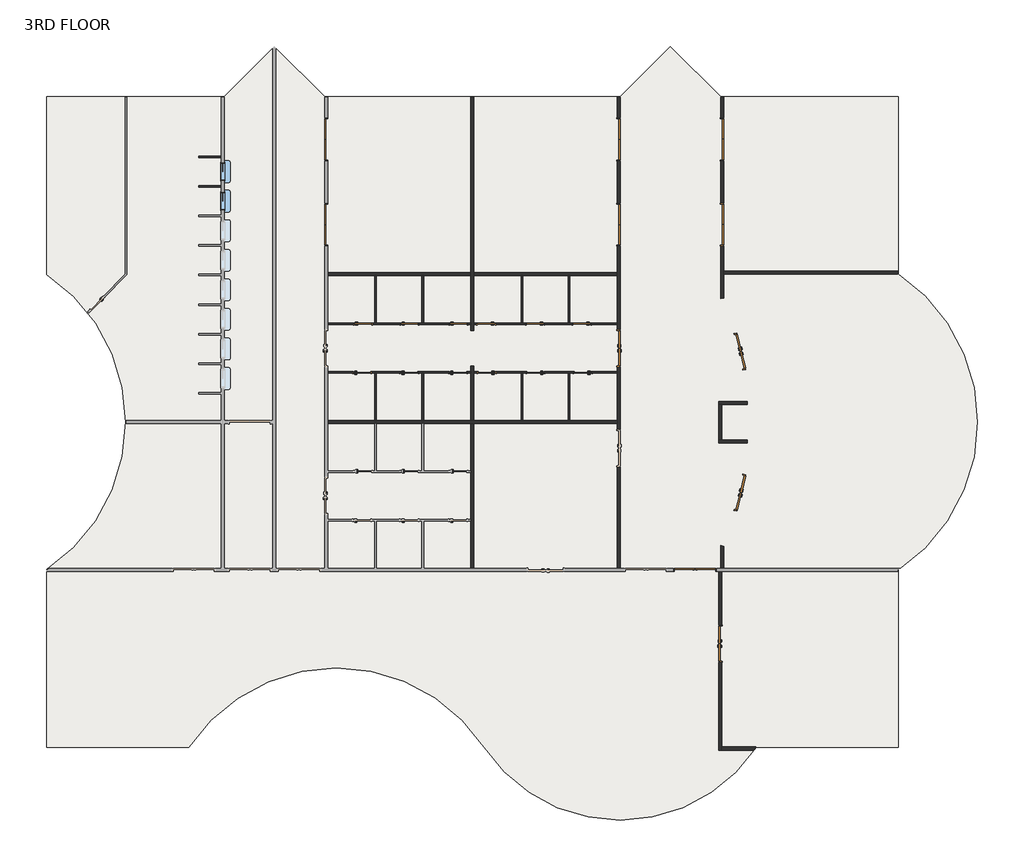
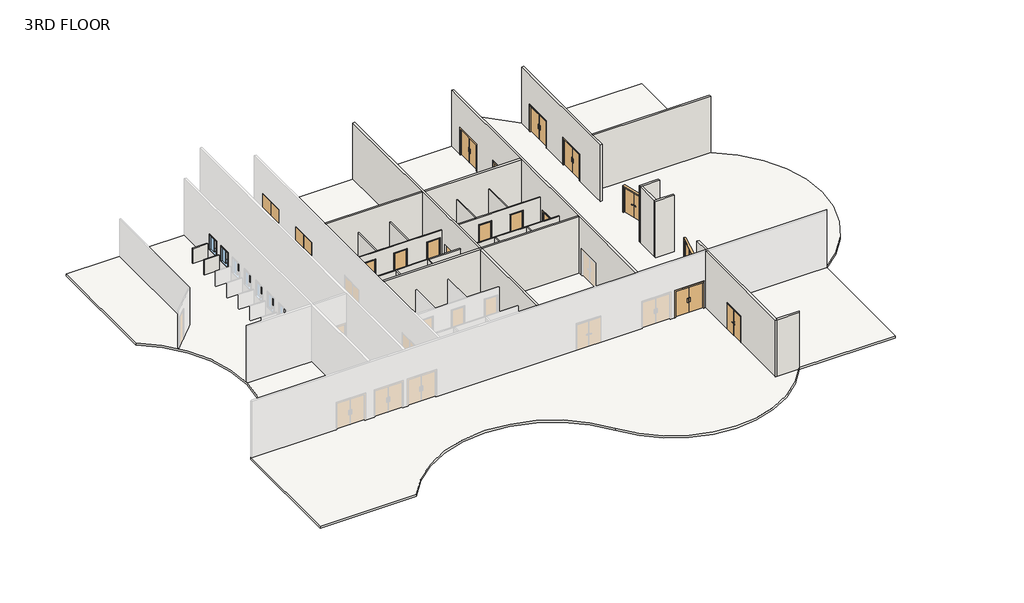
# One storey, part 2 of 2: 26 walls, 23 doors, 2 windows, 1 slab.
"""IFC4 building model written with IfcOpenShell, lengths in millimetres."""

from ifc_helpers import new_model, si_unit, point, frame, frame_2d, origin, place, context, project, spatial, polyline, circle_curve, trimmed, segment, composite_curve, outline, extrude, faceted_brep, transform, mapped, element, save
from ifc_brep_helpers import plane_surface, cylinder_surface, advanced_brep
from components import door_2f250f70, door_df8e76c5, door_0b13e4d9, door_b3a27a16, door_979b1b8c, door_f8b587be, pass_thru_4x3_19d81059

model = new_model("IFC4")

# Units and contexts
model_context = context("Model", 3, world=origin())
ifc_project = project(units=[si_unit("LENGTHUNIT", "METRE", prefix="MILLI")], contexts=[model_context])

# Site, building, storey
site = spatial("IfcSite", under=ifc_project)
building = spatial("IfcBuilding", under=site)
storey = spatial("IfcBuildingStorey", under=building, Name="3RD FLOOR", Elevation=13716.0)

# Doors
placement = place(None, origin())
door_shape = door_2f250f70(model_context)
element("IfcDoor", 1, ObjectType="Door-Passage-Double-Flush : 72\" x 82\"", at=placement, inside=storey, context=model_context, shape_type="MappedRepresentation", body=[
    mapped(door_shape, transform((35885.2621514, 20561.4429091, 13716.0), x_axis=(0.23975975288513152, -0.9708322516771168, 0.0), y_axis=(0.9708322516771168, 0.23975975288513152, 0.0), z_axis=(0.0, 0.0, 1.0))),
])
element("IfcDoor", 2, ObjectType="Door-Passage-Double-Flush : 72\" x 82\"", at=placement, inside=storey, context=model_context, shape_type="MappedRepresentation", body=[
    mapped(door_shape, transform((34887.5089577, 5494.3375, 13716.0), x_axis=(0.0, 1.0, 0.0), y_axis=(-1.0, 0.0, 0.0), z_axis=(0.0, 0.0, 1.0))),
])
door_2_shape = door_df8e76c5(model_context)
element("IfcDoor", 3, ObjectType="Door-Passage-Double-Flush : 72\" x 82\"", at=placement, inside=storey, context=model_context, shape_type="MappedRepresentation", body=[
    mapped(door_2_shape, transform((35886.7385063, 13277.3403388, 13716.0), x_axis=(0.23936619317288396, 0.9709293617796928, 0.0), y_axis=(-0.9709293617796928, 0.23936619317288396, 0.0), z_axis=(0.0, 0.0, 1.0))),
])
element("IfcDoor", 4, ObjectType="Door-Passage-Double-Flush : 72\" x 82\"", at=placement, inside=storey, context=model_context, shape_type="MappedRepresentation", body=[
    mapped(door_2_shape, transform((29628.0650257, 20729.575, 13716.0), x_axis=(0.0, 1.0, 0.0), y_axis=(-1.0, 0.0, 0.0), z_axis=(0.0, 0.0, 1.0))),
])
door_3_shape = door_0b13e4d9(model_context)
element("IfcDoor", 5, ObjectType="Door-Passage-Double-Flush-Dbl_Acting : 84\" x 84\"", at=placement, inside=storey, context=model_context, shape_type="MappedRepresentation", body=[
    mapped(door_3_shape, transform((33564.0300515, 9293.225, 13716.0), x_axis=(-1.0, 0.0, 0.0), y_axis=(0.0, -1.0, 0.0), z_axis=(0.0, 0.0, 1.0))),
])
element("IfcDoor", 6, ObjectType="Door-Passage-Double-Flush-Dbl_Acting : 84\" x 84\"", at=placement, inside=storey, context=model_context, shape_type="MappedRepresentation", body=[
    mapped(door_3_shape, transform((29628.0650257, 31499.175, 13716.0), x_axis=(0.0, 1.0, 0.0), y_axis=(-1.0, 0.0, 0.0), z_axis=(0.0, 0.0, 1.0))),
])
element("IfcDoor", 7, ObjectType="Door-Passage-Double-Flush-Dbl_Acting : 84\" x 84\"", at=placement, inside=storey, context=model_context, shape_type="MappedRepresentation", body=[
    mapped(door_3_shape, transform((29628.0650257, 27101.8, 13716.0), x_axis=(0.0, 1.0, 0.0), y_axis=(-1.0, 0.0, 0.0), z_axis=(0.0, 0.0, 1.0))),
])
door_4_shape = door_b3a27a16(model_context)
element("IfcDoor", 8, ObjectType="Door-Passage-Double-Flush-Dbl_Acting : 84\" x 84\"", at=placement, inside=storey, context=model_context, shape_type="MappedRepresentation", body=[
    mapped(door_4_shape, transform((14556.3400257, 31499.175, 13716.0), x_axis=(0.0, 1.0, 0.0), y_axis=(-1.0, 0.0, 0.0), z_axis=(0.0, 0.0, 1.0))),
])
element("IfcDoor", 9, ObjectType="Door-Passage-Double-Flush-Dbl_Acting : 84\" x 84\"", at=placement, inside=storey, context=model_context, shape_type="MappedRepresentation", body=[
    mapped(door_4_shape, transform((14556.3400257, 27101.8, 13716.0), x_axis=(0.0, 1.0, 0.0), y_axis=(-1.0, 0.0, 0.0), z_axis=(0.0, 0.0, 1.0))),
])
element("IfcDoor", 10, ObjectType="Door-Passage-Double-Flush-Dbl_Acting : 84\" x 84\"", at=placement, inside=storey, context=model_context, shape_type="MappedRepresentation", body=[
    mapped(door_4_shape, transform((34956.2675515, 31499.175, 13716.0), x_axis=(0.0, -1.0, 0.0), y_axis=(1.0, 0.0, 0.0), z_axis=(0.0, 0.0, 1.0))),
])
element("IfcDoor", 11, ObjectType="Door-Passage-Double-Flush-Dbl_Acting : 84\" x 84\"", at=placement, inside=storey, context=model_context, shape_type="MappedRepresentation", body=[
    mapped(door_4_shape, transform((34956.2675515, 27101.8, 13716.0), x_axis=(0.0, -1.0, 0.0), y_axis=(1.0, 0.0, 0.0), z_axis=(0.0, 0.0, 1.0))),
])
door_5_shape = door_979b1b8c(model_context)
element("IfcDoor", 12, ObjectType="Door-Passage-Single-Flush : 36\" x 96\"", at=placement, inside=storey, context=model_context, shape_type="MappedRepresentation", body=[
    mapped(door_5_shape, transform((16456.5775257, 21977.35, 13716.0), x_axis=(1.0, 0.0, 0.0), y_axis=(0.0, 1.0, 0.0), z_axis=(0.0, 0.0, 1.0))),
])
element("IfcDoor", 13, ObjectType="Door-Passage-Single-Flush : 36\" x 96\"", at=placement, inside=storey, context=model_context, shape_type="MappedRepresentation", body=[
    mapped(door_5_shape, transform((18855.2900257, 21977.35, 13716.0), x_axis=(1.0, 0.0, 0.0), y_axis=(0.0, 1.0, 0.0), z_axis=(0.0, 0.0, 1.0))),
])
element("IfcDoor", 14, ObjectType="Door-Passage-Single-Flush : 36\" x 96\"", at=placement, inside=storey, context=model_context, shape_type="MappedRepresentation", body=[
    mapped(door_5_shape, transform((21373.0650257, 21977.35, 13716.0), x_axis=(1.0, 0.0, 0.0), y_axis=(0.0, 1.0, 0.0), z_axis=(0.0, 0.0, 1.0))),
])
element("IfcDoor", 15, ObjectType="Door-Passage-Single-Flush : 36\" x 96\"", at=placement, inside=storey, context=model_context, shape_type="MappedRepresentation", body=[
    mapped(door_5_shape, transform((27778.6275257, 19481.8, 13716.0), x_axis=(-1.0, 0.0, 0.0), y_axis=(0.0, -1.0, 0.0), z_axis=(0.0, 0.0, 1.0))),
])
element("IfcDoor", 16, ObjectType="Door-Passage-Single-Flush : 36\" x 96\"", at=placement, inside=storey, context=model_context, shape_type="MappedRepresentation", body=[
    mapped(door_5_shape, transform((25348.1650257, 19481.8, 13716.0), x_axis=(-1.0, 0.0, 0.0), y_axis=(0.0, -1.0, 0.0), z_axis=(0.0, 0.0, 1.0))),
])
element("IfcDoor", 17, ObjectType="Door-Passage-Single-Flush : 36\" x 96\"", at=placement, inside=storey, context=model_context, shape_type="MappedRepresentation", body=[
    mapped(door_5_shape, transform((22830.3900257, 19481.8, 13716.0), x_axis=(-1.0, 0.0, 0.0), y_axis=(0.0, -1.0, 0.0), z_axis=(0.0, 0.0, 1.0))),
])
door_6_shape = door_f8b587be(model_context)
element("IfcDoor", 18, ObjectType="Door-Passage-Single-Flush : 36\" x 96\"", at=placement, inside=storey, context=model_context, shape_type="MappedRepresentation", body=[
    mapped(door_6_shape, transform((16405.7775257, 19481.8, 13716.0), x_axis=(1.0, 0.0, 0.0), y_axis=(0.0, 1.0, 0.0), z_axis=(0.0, 0.0, 1.0))),
])
element("IfcDoor", 19, ObjectType="Door-Passage-Single-Flush : 36\" x 96\"", at=placement, inside=storey, context=model_context, shape_type="MappedRepresentation", body=[
    mapped(door_6_shape, transform((18836.2400257, 19481.8, 13716.0), x_axis=(1.0, 0.0, 0.0), y_axis=(0.0, 1.0, 0.0), z_axis=(0.0, 0.0, 1.0))),
])
element("IfcDoor", 20, ObjectType="Door-Passage-Single-Flush : 36\" x 96\"", at=placement, inside=storey, context=model_context, shape_type="MappedRepresentation", body=[
    mapped(door_6_shape, transform((21354.0150257, 19481.8, 13716.0), x_axis=(1.0, 0.0, 0.0), y_axis=(0.0, 1.0, 0.0), z_axis=(0.0, 0.0, 1.0))),
])
element("IfcDoor", 21, ObjectType="Door-Passage-Single-Flush : 36\" x 96\"", at=placement, inside=storey, context=model_context, shape_type="MappedRepresentation", body=[
    mapped(door_6_shape, transform((27727.8275257, 21977.35, 13716.0), x_axis=(-1.0, 0.0, 0.0), y_axis=(0.0, -1.0, 0.0), z_axis=(0.0, 0.0, 1.0))),
])
element("IfcDoor", 22, ObjectType="Door-Passage-Single-Flush : 36\" x 96\"", at=placement, inside=storey, context=model_context, shape_type="MappedRepresentation", body=[
    mapped(door_6_shape, transform((25329.1150257, 21977.35, 13716.0), x_axis=(-1.0, 0.0, 0.0), y_axis=(0.0, -1.0, 0.0), z_axis=(0.0, 0.0, 1.0))),
])
element("IfcDoor", 23, ObjectType="Door-Passage-Single-Flush : 36\" x 96\"", at=placement, inside=storey, context=model_context, shape_type="MappedRepresentation", body=[
    mapped(door_6_shape, transform((22811.3400257, 21977.35, 13716.0), x_axis=(-1.0, 0.0, 0.0), y_axis=(0.0, -1.0, 0.0), z_axis=(0.0, 0.0, 1.0))),
])

# Slab
element("IfcSlab", 24, ObjectType="ARCHITECTURAL FINISH FLOOR", at=placement, inside=storey, context=model_context, shape_type="SweptSolid", body=[
    extrude(outline(composite_curve([segment(polyline([(9294.3144878, 33696.275), (11885.8887629, 36287.8492751), (14477.463038, 33696.275), (29706.9420135, 33696.275), (32298.5162886, 36287.8492751), (34890.0905637, 33696.275), (44041.5300515, 33696.275), (44041.5300515, 24546.3877275)]), True, "CONTINUOUS"), segment(trimmed(circle_curve(frame_2d((38974.293871, 16919.575)), 9156.7), [point((44041.5300515, 24546.3877275))], [point((44041.5300515, 9292.7622725))], False, "CARTESIAN"), True, "CONTINUOUS"), segment(polyline([(44041.5300515, 9292.7622725), (44041.5300515, 142.875), (36720.4425102, 142.875)]), True, "CONTINUOUS"), segment(trimmed(circle_curve(frame_2d((29712.2025257, 4799.7966199)), 8414.4130309), [point((36720.4425102, 142.875))], [point((22700.1916667, 148.5548109))], False, "CARTESIAN"), True, "CONTINUOUS"), segment(trimmed(circle_curve(frame_2d((15090.775, -4898.9611805)), 9131.3), [point((22700.1916667, 148.5548109))], [point((7477.593824, 142.875))], True, "CARTESIAN"), True, "CONTINUOUS"), segment(polyline([(7477.593824, 142.875), (142.875, 142.875), (142.875, 9306.393824)]), True, "CONTINUOUS"), segment(trimmed(circle_curve(frame_2d((-4898.9611805, 16919.575)), 9131.3), [point((142.875, 9306.393824))], [point((142.875, 24532.756176))], True, "CARTESIAN"), True, "CONTINUOUS"), segment(polyline([(142.875, 24532.756176), (142.875, 33696.275), (9294.3144878, 33696.275)]), True, "CONTINUOUS")], self_intersect=False)), frame((0.0, 0.0, 13563.6), z_axis=(0.0, 0.0, 1.0), x_axis=(1.0, 0.0, 0.0)), (0.0, 0.0, 1.0), 171.45),
])

# Walls
element("IfcWall", 25, ObjectType="SYR_INT_ONE_HOUR", at=placement, inside=storey, context=model_context, shape_type="SweptSolid", body=[
    extrude(outline(polyline([(17066.1775257, 22023.3875), (17066.1775257, 24461.7875), (17145.5525257, 24461.7875), (17145.5525257, 22023.3875), (17066.1775257, 22023.3875)])), frame((0.0, 0.0, 13716.0), z_axis=(0.0, 0.0, 1.0), x_axis=(1.0, 0.0, 0.0)), (0.0, 0.0, 1.0), 3048.0),
])
element("IfcWall", 26, ObjectType="SYR_INT_ONE_HOUR", at=placement, inside=storey, context=model_context, shape_type="SweptSolid", body=[
    extrude(outline(polyline([(19576.0150257, 19435.7625), (19576.0150257, 16997.3625), (19496.6400257, 16997.3625), (19496.6400257, 19435.7625), (19576.0150257, 19435.7625)])), frame((0.0, 0.0, 13716.0), z_axis=(0.0, 0.0, 1.0), x_axis=(1.0, 0.0, 0.0)), (0.0, 0.0, 1.0), 3048.0),
])
element("IfcWall", 27, ObjectType="SYR_INT_ONE_HOUR", at=placement, inside=storey, context=model_context, shape_type="Brep", body=[
    faceted_brep([(14627.7775257, 22023.3875, 16764.0), (17066.1775257, 22023.3875, 16764.0), (17145.5525257, 22023.3875, 16764.0), (19496.6400257, 22023.3875, 16764.0), (19576.0150257, 22023.3875, 16764.0), (22014.4150257, 22023.3875, 16764.0), (22014.4150257, 22023.3875, 13716.0), (21862.0150257, 22023.3875, 13716.0), (21862.0150257, 22023.3875, 16186.15), (20884.1150257, 22023.3875, 16186.15), (20884.1150257, 22023.3875, 13716.0), (19576.0150257, 22023.3875, 13716.0), (19496.6400257, 22023.3875, 13716.0), (19344.2400257, 22023.3875, 13716.0), (19344.2400257, 22023.3875, 16186.15), (18366.3400257, 22023.3875, 16186.15), (18366.3400257, 22023.3875, 13716.0), (17145.5525257, 22023.3875, 13716.0), (17066.1775257, 22023.3875, 13716.0), (16945.5275257, 22023.3875, 13716.0), (16945.5275257, 22023.3875, 16186.15), (15967.6275257, 22023.3875, 16186.15), (15967.6275257, 22023.3875, 13716.0), (14627.7775257, 22023.3875, 13716.0), (22014.4150257, 21944.0125, 16764.0), (14627.7775257, 21944.0125, 16764.0), (14627.7775257, 21944.0125, 13716.0), (15967.6275257, 21944.0125, 13716.0), (15967.6275257, 21944.0125, 16186.15), (16945.5275257, 21944.0125, 16186.15), (16945.5275257, 21944.0125, 13716.0), (18366.3400257, 21944.0125, 13716.0), (18366.3400257, 21944.0125, 16186.15), (19344.2400257, 21944.0125, 16186.15), (19344.2400257, 21944.0125, 13716.0), (20884.1150257, 21944.0125, 13716.0), (20884.1150257, 21944.0125, 16186.15), (21862.0150257, 21944.0125, 16186.15), (21862.0150257, 21944.0125, 13716.0), (22014.4150257, 21944.0125, 13716.0)], [[[0, 1, 2, 3, 4, 5, 6, 7, 8, 9, 10, 11, 12, 13, 14, 15, 16, 17, 18, 19, 20, 21, 22, 23]], [[24, 25, 26, 27, 28, 29, 30, 31, 32, 33, 34, 35, 36, 37, 38, 39]], [[23, 22, 27, 26]], [[30, 19, 18, 17, 16, 31]], [[34, 13, 12, 11, 10, 35]], [[6, 39, 38, 7]], [[5, 4, 3, 2, 1, 0, 25, 24]], [[29, 20, 19, 30]], [[20, 29, 28, 21]], [[21, 28, 27, 22]], [[14, 13, 34, 33]], [[15, 14, 33, 32]], [[16, 15, 32, 31]], [[37, 8, 7, 38]], [[8, 37, 36, 9]], [[9, 36, 35, 10]], [[0, 23, 26, 25]], [[6, 5, 24, 39]]]),
])
element("IfcWall", 28, ObjectType="SYR_INT_ONE_HOUR", at=placement, inside=storey, context=model_context, shape_type="Brep", body=[
    faceted_brep([(14627.7775257, 19515.1375, 16764.0), (22014.4150257, 19515.1375, 16764.0), (22014.4150257, 19515.1375, 13716.0), (21842.9650257, 19515.1375, 13716.0), (21842.9650257, 19515.1375, 16186.15), (20865.0650257, 19515.1375, 16186.15), (20865.0650257, 19515.1375, 13716.0), (19325.1900257, 19515.1375, 13716.0), (19325.1900257, 19515.1375, 16186.15), (18347.2900257, 19515.1375, 16186.15), (18347.2900257, 19515.1375, 13716.0), (16894.7275257, 19515.1375, 13716.0), (16894.7275257, 19515.1375, 16186.15), (15916.8275257, 19515.1375, 16186.15), (15916.8275257, 19515.1375, 13716.0), (14627.7775257, 19515.1375, 13716.0), (22014.4150257, 19435.7625, 16764.0), (19576.0150257, 19435.7625, 16764.0), (19496.6400257, 19435.7625, 16764.0), (17145.5525257, 19435.7625, 16764.0), (17066.1775257, 19435.7625, 16764.0), (14627.7775257, 19435.7625, 16764.0), (14627.7775257, 19435.7625, 13716.0), (15916.8275257, 19435.7625, 13716.0), (15916.8275257, 19435.7625, 16186.15), (16894.7275257, 19435.7625, 16186.15), (16894.7275257, 19435.7625, 13716.0), (17066.1775257, 19435.7625, 13716.0), (17145.5525257, 19435.7625, 13716.0), (18347.2900257, 19435.7625, 13716.0), (18347.2900257, 19435.7625, 16186.15), (19325.1900257, 19435.7625, 16186.15), (19325.1900257, 19435.7625, 13716.0), (19496.6400257, 19435.7625, 13716.0), (19576.0150257, 19435.7625, 13716.0), (20865.0650257, 19435.7625, 13716.0), (20865.0650257, 19435.7625, 16186.15), (21842.9650257, 19435.7625, 16186.15), (21842.9650257, 19435.7625, 13716.0), (22014.4150257, 19435.7625, 13716.0)], [[[0, 1, 2, 3, 4, 5, 6, 7, 8, 9, 10, 11, 12, 13, 14, 15]], [[16, 17, 18, 19, 20, 21, 22, 23, 24, 25, 26, 27, 28, 29, 30, 31, 32, 33, 34, 35, 36, 37, 38, 39]], [[15, 14, 23, 22]], [[26, 11, 10, 29, 28, 27]], [[32, 7, 6, 35, 34, 33]], [[2, 39, 38, 3]], [[1, 0, 21, 20, 19, 18, 17, 16]], [[25, 12, 11, 26]], [[12, 25, 24, 13]], [[13, 24, 23, 14]], [[31, 8, 7, 32]], [[8, 31, 30, 9]], [[9, 30, 29, 10]], [[37, 4, 3, 38]], [[4, 37, 36, 5]], [[5, 36, 35, 6]], [[0, 15, 22, 21]], [[2, 1, 16, 39]]]),
])
element("IfcWall", 29, ObjectType="SYR_INT_ONE_HOUR", at=placement, inside=storey, context=model_context, shape_type="SweptSolid", body=[
    extrude(outline(polyline([(17066.1775257, 16997.3625), (17066.1775257, 19435.7625), (17145.5525257, 19435.7625), (17145.5525257, 16997.3625), (17066.1775257, 16997.3625)])), frame((0.0, 0.0, 13716.0), z_axis=(0.0, 0.0, 1.0), x_axis=(1.0, 0.0, 0.0)), (0.0, 0.0, 1.0), 3048.0),
])
element("IfcWall", 30, ObjectType="SYR_INT_ONE_HOUR", at=placement, inside=storey, context=model_context, shape_type="SweptSolid", body=[
    extrude(outline(polyline([(19576.0150257, 24461.7875), (19576.0150257, 22023.3875), (19496.6400257, 22023.3875), (19496.6400257, 24461.7875), (19576.0150257, 24461.7875)])), frame((0.0, 0.0, 13716.0), z_axis=(0.0, 0.0, 1.0), x_axis=(1.0, 0.0, 0.0)), (0.0, 0.0, 1.0), 3048.0),
])
element("IfcWall", 31, ObjectType="SYR_INT_ONE_HOUR", at=placement, inside=storey, context=model_context, shape_type="SweptSolid", body=[
    extrude(outline(polyline([(7979.2710938, 29111.575), (9144.0, 29111.575), (9144.0, 29032.2), (7979.2710938, 29032.2), (7979.2710938, 29111.575)])), frame((0.0, 0.0, 13716.0), z_axis=(0.0, 0.0, 1.0), x_axis=(1.0, 0.0, 0.0)), (0.0, 0.0, 1.0), 1219.2),
])
element("IfcWall", 32, ObjectType="SYR_INT_ONE_HOUR", at=placement, inside=storey, context=model_context, shape_type="SweptSolid", body=[
    extrude(outline(polyline([(7979.2710938, 30635.575), (9144.0, 30635.575), (9144.0, 30556.2), (7979.2710938, 30556.2), (7979.2710938, 30635.575)])), frame((0.0, 0.0, 13716.0), z_axis=(0.0, 0.0, 1.0), x_axis=(1.0, 0.0, 0.0)), (0.0, 0.0, 1.0), 1219.2),
])
element("IfcWall", 33, ObjectType="SYR_INT_ONE_HOUR", at=placement, inside=storey, context=model_context, shape_type="SweptSolid", body=[
    extrude(outline(polyline([(27038.8525257, 22023.3875), (27038.8525257, 24461.7875), (27118.2275257, 24461.7875), (27118.2275257, 22023.3875), (27038.8525257, 22023.3875)])), frame((0.0, 0.0, 13716.0), z_axis=(0.0, 0.0, 1.0), x_axis=(1.0, 0.0, 0.0)), (0.0, 0.0, 1.0), 3048.0),
])
element("IfcWall", 34, ObjectType="SYR_INT_ONE_HOUR", at=placement, inside=storey, context=model_context, shape_type="SweptSolid", body=[
    extrude(outline(polyline([(24687.7650257, 19435.7625), (24687.7650257, 16997.3625), (24608.3900257, 16997.3625), (24608.3900257, 19435.7625), (24687.7650257, 19435.7625)])), frame((0.0, 0.0, 13716.0), z_axis=(0.0, 0.0, 1.0), x_axis=(1.0, 0.0, 0.0)), (0.0, 0.0, 1.0), 3048.0),
])
element("IfcWall", 35, ObjectType="SYR_INT_ONE_HOUR", at=placement, inside=storey, context=model_context, shape_type="Brep", body=[
    faceted_brep([(29556.6275257, 21944.0125, 16764.0), (22169.9900257, 21944.0125, 16764.0), (22169.9900257, 21944.0125, 13716.0), (22322.3900257, 21944.0125, 13716.0), (22322.3900257, 21944.0125, 16186.15), (23300.2900257, 21944.0125, 16186.15), (23300.2900257, 21944.0125, 13716.0), (24840.1650257, 21944.0125, 13716.0), (24840.1650257, 21944.0125, 16186.15), (25818.0650257, 21944.0125, 16186.15), (25818.0650257, 21944.0125, 13716.0), (27238.8775257, 21944.0125, 13716.0), (27238.8775257, 21944.0125, 16186.15), (28216.7775257, 21944.0125, 16186.15), (28216.7775257, 21944.0125, 13716.0), (29556.6275257, 21944.0125, 13716.0), (22169.9900257, 22023.3875, 16764.0), (24608.3900257, 22023.3875, 16764.0), (24687.7650257, 22023.3875, 16764.0), (27038.8525257, 22023.3875, 16764.0), (27118.2275257, 22023.3875, 16764.0), (29556.6275257, 22023.3875, 16764.0), (29556.6275257, 22023.3875, 13716.0), (28216.7775257, 22023.3875, 13716.0), (28216.7775257, 22023.3875, 16186.15), (27238.8775257, 22023.3875, 16186.15), (27238.8775257, 22023.3875, 13716.0), (27118.2275257, 22023.3875, 13716.0), (27038.8525257, 22023.3875, 13716.0), (25818.0650257, 22023.3875, 13716.0), (25818.0650257, 22023.3875, 16186.15), (24840.1650257, 22023.3875, 16186.15), (24840.1650257, 22023.3875, 13716.0), (24687.7650257, 22023.3875, 13716.0), (24608.3900257, 22023.3875, 13716.0), (23300.2900257, 22023.3875, 13716.0), (23300.2900257, 22023.3875, 16186.15), (22322.3900257, 22023.3875, 16186.15), (22322.3900257, 22023.3875, 13716.0), (22169.9900257, 22023.3875, 13716.0)], [[[0, 1, 2, 3, 4, 5, 6, 7, 8, 9, 10, 11, 12, 13, 14, 15]], [[16, 17, 18, 19, 20, 21, 22, 23, 24, 25, 26, 27, 28, 29, 30, 31, 32, 33, 34, 35, 36, 37, 38, 39]], [[15, 14, 23, 22]], [[26, 11, 10, 29, 28, 27]], [[32, 7, 6, 35, 34, 33]], [[2, 39, 38, 3]], [[1, 0, 21, 20, 19, 18, 17, 16]], [[25, 12, 11, 26]], [[12, 25, 24, 13]], [[13, 24, 23, 14]], [[8, 7, 32, 31]], [[9, 8, 31, 30]], [[10, 9, 30, 29]], [[37, 4, 3, 38]], [[4, 37, 36, 5]], [[5, 36, 35, 6]], [[0, 15, 22, 21]], [[2, 1, 16, 39]]]),
])
element("IfcWall", 36, ObjectType="SYR_INT_ONE_HOUR", at=placement, inside=storey, context=model_context, shape_type="Brep", body=[
    faceted_brep([(29556.6275257, 19435.7625, 16764.0), (27118.2275257, 19435.7625, 16764.0), (27038.8525257, 19435.7625, 16764.0), (24687.7650257, 19435.7625, 16764.0), (24608.3900257, 19435.7625, 16764.0), (22169.9900257, 19435.7625, 16764.0), (22169.9900257, 19435.7625, 13716.0), (22341.4400257, 19435.7625, 13716.0), (22341.4400257, 19435.7625, 16186.15), (23319.3400257, 19435.7625, 16186.15), (23319.3400257, 19435.7625, 13716.0), (24608.3900257, 19435.7625, 13716.0), (24687.7650257, 19435.7625, 13716.0), (24859.2150257, 19435.7625, 13716.0), (24859.2150257, 19435.7625, 16186.15), (25837.1150257, 19435.7625, 16186.15), (25837.1150257, 19435.7625, 13716.0), (27038.8525257, 19435.7625, 13716.0), (27118.2275257, 19435.7625, 13716.0), (27289.6775257, 19435.7625, 13716.0), (27289.6775257, 19435.7625, 16186.15), (28267.5775257, 19435.7625, 16186.15), (28267.5775257, 19435.7625, 13716.0), (29556.6275257, 19435.7625, 13716.0), (22169.9900257, 19515.1375, 16764.0), (29556.6275257, 19515.1375, 16764.0), (29556.6275257, 19515.1375, 13716.0), (28267.5775257, 19515.1375, 13716.0), (28267.5775257, 19515.1375, 16186.15), (27289.6775257, 19515.1375, 16186.15), (27289.6775257, 19515.1375, 13716.0), (25837.1150257, 19515.1375, 13716.0), (25837.1150257, 19515.1375, 16186.15), (24859.2150257, 19515.1375, 16186.15), (24859.2150257, 19515.1375, 13716.0), (23319.3400257, 19515.1375, 13716.0), (23319.3400257, 19515.1375, 16186.15), (22341.4400257, 19515.1375, 16186.15), (22341.4400257, 19515.1375, 13716.0), (22169.9900257, 19515.1375, 13716.0)], [[[0, 1, 2, 3, 4, 5, 6, 7, 8, 9, 10, 11, 12, 13, 14, 15, 16, 17, 18, 19, 20, 21, 22, 23]], [[24, 25, 26, 27, 28, 29, 30, 31, 32, 33, 34, 35, 36, 37, 38, 39]], [[23, 22, 27, 26]], [[30, 19, 18, 17, 16, 31]], [[34, 13, 12, 11, 10, 35]], [[6, 39, 38, 7]], [[5, 4, 3, 2, 1, 0, 25, 24]], [[29, 20, 19, 30]], [[20, 29, 28, 21]], [[21, 28, 27, 22]], [[33, 14, 13, 34]], [[14, 33, 32, 15]], [[15, 32, 31, 16]], [[37, 8, 7, 38]], [[8, 37, 36, 9]], [[9, 36, 35, 10]], [[0, 23, 26, 25]], [[6, 5, 24, 39]]]),
])
element("IfcWall", 37, ObjectType="SYR_INT_ONE_HOUR", at=placement, inside=storey, context=model_context, shape_type="SweptSolid", body=[
    extrude(outline(polyline([(27038.8525257, 16997.3625), (27038.8525257, 19435.7625), (27118.2275257, 19435.7625), (27118.2275257, 16997.3625), (27038.8525257, 16997.3625)])), frame((0.0, 0.0, 13716.0), z_axis=(0.0, 0.0, 1.0), x_axis=(1.0, 0.0, 0.0)), (0.0, 0.0, 1.0), 3048.0),
])
element("IfcWall", 38, ObjectType="SYR_INT_ONE_HOUR", at=placement, inside=storey, context=model_context, shape_type="SweptSolid", body=[
    extrude(outline(polyline([(24687.7650257, 24461.7875), (24687.7650257, 22023.3875), (24608.3900257, 22023.3875), (24608.3900257, 24461.7875), (24687.7650257, 24461.7875)])), frame((0.0, 0.0, 13716.0), z_axis=(0.0, 0.0, 1.0), x_axis=(1.0, 0.0, 0.0)), (0.0, 0.0, 1.0), 3048.0),
])
element("IfcWall", 39, ObjectType="SYR_INT_TWO_HOUR", at=placement, inside=storey, context=model_context, shape_type="Brep", body=[
    faceted_brep([(34803.3714577, 0.0, 18288.0), (34803.3714577, 9221.7875, 18288.0), (34803.3714577, 9221.7875, 13716.0), (34803.3714577, 6459.5375, 13716.0), (34803.3714577, 6459.5375, 15900.4), (34803.3714577, 4529.1375, 15900.4), (34803.3714577, 4529.1375, 13716.0), (34803.3714577, 0.0, 13716.0), (34958.9464577, 9221.7875, 18288.0), (34958.9464577, 155.575, 18288.0), (34958.9464577, 0.0, 18288.0), (34958.9464577, 0.0, 13716.0), (34958.9464577, 155.575, 13716.0), (34958.9464577, 4529.1375, 13716.0), (34958.9464577, 4529.1375, 15900.4), (34958.9464577, 6459.5375, 15900.4), (34958.9464577, 6459.5375, 13716.0), (34958.9464577, 9221.7875, 13716.0)], [[[0, 1, 2, 3, 4, 5, 6, 7]], [[8, 9, 10, 11, 12, 13, 14, 15, 16, 17]], [[2, 17, 16, 3]], [[11, 7, 6, 13, 12]], [[1, 0, 10, 9, 8]], [[2, 1, 8, 17]], [[0, 7, 11, 10]], [[15, 4, 3, 16]], [[4, 15, 14, 5]], [[5, 14, 13, 6]]]),
])
element("IfcWall", 40, ObjectType="SYR_INT_TWO_HOUR", at=placement, inside=storey, context=model_context, shape_type="SweptSolid", body=[
    extrude(outline(composite_curve([segment(polyline([(36607.9065696, 0.0), (34958.9464577, 0.0), (34958.9464577, 155.575), (36713.6300515, 155.575)]), True, "CONTINUOUS"), segment(trimmed(circle_curve(frame_2d((29712.2025257, 4799.7966199)), 8401.7130309), [point((36713.6300515, 155.575))], [point((36607.9065696, 0.0))], False, "CARTESIAN"), True, "CONTINUOUS")], self_intersect=False)), frame((0.0, 0.0, 13716.0), z_axis=(0.0, 0.0, 1.0), x_axis=(1.0, 0.0, 0.0)), (0.0, 0.0, 1.0), 4572.0),
])
element("IfcWall", 41, ObjectType="SYR_INT_TWO_HOUR", at=placement, inside=storey, context=model_context, shape_type="Brep", body=[
    faceted_brep([(29556.6275257, 9377.3625, 18288.0), (29556.6275257, 16841.7875, 18288.0), (29556.6275257, 16997.3625, 18288.0), (29556.6275257, 24461.7875, 18288.0), (29556.6275257, 24617.3625, 18288.0), (29556.6275257, 33683.575, 18288.0), (29556.6275257, 33683.575, 13716.0), (29556.6275257, 32616.775, 13716.0), (29556.6275257, 32616.775, 15951.2), (29556.6275257, 30381.575, 15951.2), (29556.6275257, 30381.575, 13716.0), (29556.6275257, 28219.4, 13716.0), (29556.6275257, 28219.4, 15951.2), (29556.6275257, 25984.2, 15951.2), (29556.6275257, 25984.2, 13716.0), (29556.6275257, 24617.3625, 13716.0), (29556.6275257, 24461.7875, 13716.0), (29556.6275257, 22023.3875, 13716.0), (29556.6275257, 21944.0125, 13716.0), (29556.6275257, 21694.775, 13716.0), (29556.6275257, 21694.775, 15900.4), (29556.6275257, 19764.375, 15900.4), (29556.6275257, 19764.375, 13716.0), (29556.6275257, 19515.1375, 13716.0), (29556.6275257, 19435.7625, 13716.0), (29556.6275257, 16997.3625, 13716.0), (29556.6275257, 16841.7875, 13716.0), (29556.6275257, 16536.9875, 13716.0), (29556.6275257, 16536.9875, 15900.4), (29556.6275257, 14606.5875, 15900.4), (29556.6275257, 14606.5875, 13716.0), (29556.6275257, 9377.3625, 13716.0), (29712.2025257, 33683.575, 18288.0), (29712.2025257, 9377.3625, 18288.0), (29712.2025257, 9377.3625, 13716.0), (29712.2025257, 14606.5875, 13716.0), (29712.2025257, 14606.5875, 15900.4), (29712.2025257, 16536.9875, 15900.4), (29712.2025257, 16536.9875, 13716.0), (29712.2025257, 19764.375, 13716.0), (29712.2025257, 19764.375, 15900.4), (29712.2025257, 21694.775, 15900.4), (29712.2025257, 21694.775, 13716.0), (29712.2025257, 25984.2, 13716.0), (29712.2025257, 25984.2, 15951.2), (29712.2025257, 28219.4, 15951.2), (29712.2025257, 28219.4, 13716.0), (29712.2025257, 30381.575, 13716.0), (29712.2025257, 30381.575, 15951.2), (29712.2025257, 32616.775, 15951.2), (29712.2025257, 32616.775, 13716.0), (29712.2025257, 33683.575, 13716.0)], [[[0, 1, 2, 3, 4, 5, 6, 7, 8, 9, 10, 11, 12, 13, 14, 15, 16, 17, 18, 19, 20, 21, 22, 23, 24, 25, 26, 27, 28, 29, 30, 31]], [[32, 33, 34, 35, 36, 37, 38, 39, 40, 41, 42, 43, 44, 45, 46, 47, 48, 49, 50, 51]], [[34, 31, 30, 35]], [[42, 19, 18, 17, 16, 15, 14, 43]], [[22, 39, 38, 27, 26, 25, 24, 23]], [[46, 11, 10, 47]], [[7, 6, 51, 50]], [[5, 4, 3, 2, 1, 0, 33, 32]], [[0, 31, 34, 33]], [[41, 20, 19, 42]], [[20, 41, 40, 21]], [[21, 40, 39, 22]], [[45, 12, 11, 46]], [[12, 45, 44, 13]], [[13, 44, 43, 14]], [[49, 8, 7, 50]], [[8, 49, 48, 9]], [[9, 48, 47, 10]], [[29, 36, 35, 30]], [[36, 29, 28, 37]], [[37, 28, 27, 38]], [[6, 5, 32, 51]]]),
])
element("IfcWall", 42, ObjectType="SYR_INT_TWO_HOUR", at=placement, inside=storey, context=model_context, shape_type="Brep", body=[
    faceted_brep([(34884.8300515, 23286.7810764, 18288.0), (34884.8300515, 33683.575, 18288.0), (34884.8300515, 33683.575, 13716.0), (34884.8300515, 32616.775, 13716.0), (34884.8300515, 32616.775, 15951.2), (34884.8300515, 30381.575, 15951.2), (34884.8300515, 30381.575, 13716.0), (34884.8300515, 28219.4, 13716.0), (34884.8300515, 28219.4, 15951.2), (34884.8300515, 25984.2, 15951.2), (34884.8300515, 25984.2, 13716.0), (34884.8300515, 23286.7810764, 13716.0), (35040.4050515, 33683.575, 18288.0), (35040.4050515, 24695.15, 18288.0), (35040.4050515, 24539.575, 18288.0), (35040.4050515, 23320.9573614, 18288.0), (35040.4050515, 23320.9573614, 13716.0), (35040.4050515, 24539.575, 13716.0), (35040.4050515, 24695.15, 13716.0), (35040.4050515, 25984.2, 13716.0), (35040.4050515, 25984.2, 15951.2), (35040.4050515, 28219.4, 15951.2), (35040.4050515, 28219.4, 13716.0), (35040.4050515, 30381.575, 13716.0), (35040.4050515, 30381.575, 15951.2), (35040.4050515, 32616.775, 15951.2), (35040.4050515, 32616.775, 13716.0), (35040.4050515, 33683.575, 13716.0)], [[[0, 1, 2, 3, 4, 5, 6, 7, 8, 9, 10, 11]], [[12, 13, 14, 15, 16, 17, 18, 19, 20, 21, 22, 23, 24, 25, 26, 27]], [[16, 11, 10, 19, 18, 17]], [[3, 2, 27, 26]], [[6, 23, 22, 7]], [[1, 0, 15, 14, 13, 12]], [[0, 11, 16, 15]], [[5, 24, 23, 6]], [[24, 5, 4, 25]], [[25, 4, 3, 26]], [[9, 20, 19, 10]], [[20, 9, 8, 21]], [[21, 8, 7, 22]], [[2, 1, 12, 27]]]),
])
element("IfcWall", 43, ObjectType="SYR_INT_TWO_HOUR", at=placement, inside=storey, context=model_context, shape_type="Brep", body=[
    faceted_brep([(14627.7775257, 16841.7875, 13716.0), (17066.1775257, 16841.7875, 13716.0), (17145.5525257, 16841.7875, 13716.0), (19496.6400257, 16841.7875, 13716.0), (19576.0150257, 16841.7875, 13716.0), (22014.4150257, 16841.7875, 13716.0), (22169.9900257, 16841.7875, 13716.0), (29556.6275257, 16841.7875, 13716.0), (29556.6275257, 16841.7875, 18288.0), (22169.9900257, 16841.7875, 18288.0), (22014.4150257, 16841.7875, 18288.0), (14627.7775257, 16841.7875, 18288.0), (14627.7775257, 16997.3625, 13716.0), (14627.7775257, 16997.3625, 18288.0), (22014.4150257, 16997.3625, 18288.0), (22169.9900257, 16997.3625, 18288.0), (29556.6275257, 16997.3625, 18288.0), (29556.6275257, 16997.3625, 13716.0), (27118.2275257, 16997.3625, 13716.0), (27038.8525257, 16997.3625, 13716.0), (24687.7650257, 16997.3625, 13716.0), (24608.3900257, 16997.3625, 13716.0), (22169.9900257, 16997.3625, 13716.0), (22014.4150257, 16997.3625, 13716.0), (19576.0150257, 16997.3625, 13716.0), (19496.6400257, 16997.3625, 13716.0), (17145.5525257, 16997.3625, 13716.0), (17066.1775257, 16997.3625, 13716.0)], [[[0, 1, 2, 3, 4, 5, 6, 7, 8, 9, 10, 11]], [[12, 13, 14, 15, 16, 17, 18, 19, 20, 21, 22, 23, 24, 25, 26, 27]], [[7, 6, 5, 4, 3, 2, 1, 0, 12, 27, 26, 25, 24, 23, 22, 21, 20, 19, 18, 17]], [[11, 10, 9, 8, 16, 15, 14, 13]], [[0, 11, 13, 12]], [[8, 7, 17, 16]]]),
])
element("IfcWall", 44, ObjectType="SYR_INT_TWO_HOUR", at=placement, inside=storey, context=model_context, shape_type="Brep", body=[
    faceted_brep([(22169.9900257, 9377.3625, 18288.0), (22169.9900257, 9377.3625, 13716.0), (22169.9900257, 16841.7875, 13716.0), (22169.9900257, 16841.7875, 18288.0), (22014.4150257, 9377.3625, 13716.0), (22014.4150257, 9377.3625, 18288.0), (22014.4150257, 16841.7875, 18288.0), (22014.4150257, 16841.7875, 13716.0), (22014.4150257, 14403.3875, 13716.0), (22014.4150257, 14324.0125, 13716.0), (22014.4150257, 11895.1375, 13716.0), (22014.4150257, 11815.7625, 13716.0)], [[[0, 1, 2, 3]], [[4, 5, 6, 7, 8, 9, 10, 11]], [[1, 4, 11, 10, 9, 8, 7, 2]], [[5, 0, 3, 6]], [[1, 0, 5, 4]], [[3, 2, 7, 6]]]),
    faceted_brep([(22169.9900257, 19815.175, 13716.0), (22169.9900257, 19815.175, 15849.6), (22169.9900257, 21643.975, 15849.6), (22169.9900257, 21643.975, 13716.0), (22169.9900257, 21944.0125, 13716.0), (22169.9900257, 22023.3875, 13716.0), (22169.9900257, 24461.7875, 13716.0), (22169.9900257, 24617.3625, 13716.0), (22169.9900257, 33683.575, 13716.0), (22169.9900257, 33683.575, 18288.0), (22169.9900257, 24617.3625, 18288.0), (22169.9900257, 24461.7875, 18288.0), (22169.9900257, 16997.3625, 18288.0), (22169.9900257, 16997.3625, 13716.0), (22169.9900257, 19435.7625, 13716.0), (22169.9900257, 19515.1375, 13716.0), (22014.4150257, 19815.175, 15849.6), (22014.4150257, 19815.175, 13716.0), (22014.4150257, 19515.1375, 13716.0), (22014.4150257, 19435.7625, 13716.0), (22014.4150257, 16997.3625, 13716.0), (22014.4150257, 16997.3625, 18288.0), (22014.4150257, 24461.7875, 18288.0), (22014.4150257, 24617.3625, 18288.0), (22014.4150257, 33683.575, 18288.0), (22014.4150257, 33683.575, 13716.0), (22014.4150257, 24617.3625, 13716.0), (22014.4150257, 24461.7875, 13716.0), (22014.4150257, 22023.3875, 13716.0), (22014.4150257, 21944.0125, 13716.0), (22014.4150257, 21643.975, 13716.0), (22014.4150257, 21643.975, 15849.6)], [[[0, 1, 2, 3, 4, 5, 6, 7, 8, 9, 10, 11, 12, 13, 14, 15]], [[16, 17, 18, 19, 20, 21, 22, 23, 24, 25, 26, 27, 28, 29, 30, 31]], [[17, 0, 15, 14, 13, 20, 19, 18]], [[3, 30, 29, 28, 27, 26, 25, 8, 7, 6, 5, 4]], [[9, 24, 23, 22, 21, 12, 11, 10]], [[13, 12, 21, 20]], [[17, 16, 1, 0]], [[31, 30, 3, 2]], [[16, 31, 2, 1]], [[9, 8, 25, 24]]]),
])
element("IfcWall", 45, ObjectType="SYR_INT_TWO_HOUR", at=placement, inside=storey, context=model_context, shape_type="Brep", body=[
    faceted_brep([(14627.7775257, 24461.7875, 18288.0), (14627.7775257, 24461.7875, 13716.0), (17066.1775257, 24461.7875, 13716.0), (17145.5525257, 24461.7875, 13716.0), (19496.6400257, 24461.7875, 13716.0), (19576.0150257, 24461.7875, 13716.0), (22014.4150257, 24461.7875, 13716.0), (22014.4150257, 24461.7875, 18288.0), (14627.7775257, 24617.3625, 13716.0), (14627.7775257, 24617.3625, 18288.0), (22014.4150257, 24617.3625, 18288.0), (22014.4150257, 24617.3625, 13716.0)], [[[0, 1, 2, 3, 4, 5, 6, 7]], [[8, 9, 10, 11]], [[1, 8, 11, 6, 5, 4, 3, 2]], [[9, 0, 7, 10]], [[1, 0, 9, 8]], [[7, 6, 11, 10]]]),
    faceted_brep([(29556.6275257, 24461.7875, 13716.0), (29556.6275257, 24461.7875, 18288.0), (22169.9900257, 24461.7875, 18288.0), (22169.9900257, 24461.7875, 13716.0), (24608.3900257, 24461.7875, 13716.0), (24687.7650257, 24461.7875, 13716.0), (27038.8525257, 24461.7875, 13716.0), (27118.2275257, 24461.7875, 13716.0), (29556.6275257, 24617.3625, 18288.0), (29556.6275257, 24617.3625, 13716.0), (22169.9900257, 24617.3625, 13716.0), (22169.9900257, 24617.3625, 18288.0)], [[[0, 1, 2, 3, 4, 5, 6, 7]], [[8, 9, 10, 11]], [[9, 0, 7, 6, 5, 4, 3, 10]], [[1, 8, 11, 2]], [[1, 0, 9, 8]], [[3, 2, 11, 10]]]),
])
element("IfcWall", 46, ObjectType="SYR_INT_TWO_HOUR", at=placement, inside=storey, context=model_context, shape_type="SweptSolid", body=[
    extrude(outline(polyline([(35040.4050515, 24695.15), (44028.8300515, 24695.15), (44028.8300515, 24539.575), (35040.4050515, 24539.575), (35040.4050515, 24695.15)])), frame((0.0, 0.0, 13716.0), z_axis=(0.0, 0.0, 1.0), x_axis=(1.0, 0.0, 0.0)), (0.0, 0.0, 1.0), 4572.0),
])
element("IfcWall", 47, ObjectType="SYR_INT_TWO_HOUR", at=placement, inside=storey, context=model_context, shape_type="SweptSolid", body=[
    extrude(outline(polyline([(34884.8300515, 9377.3625), (34884.8300515, 10546.0189236), (35040.4050515, 10511.8426386), (35040.4050515, 9377.3625), (34884.8300515, 9377.3625)])), frame((0.0, 0.0, 13716.0), z_axis=(0.0, 0.0, 1.0), x_axis=(1.0, 0.0, 0.0)), (0.0, 0.0, 1.0), 4572.0),
])
element("IfcWall", 48, ObjectType="SYR_INT_TWO_HOUR", at=placement, inside=storey, context=model_context, shape_type="AdvancedBrep", body=[
    advanced_brep(
    [(36260.4137436, 16002.0, 13716.0), (34939.3011452, 16002.0, 13716.0), (34783.7261452, 16002.0, 13716.0), (34783.7261452, 16002.0, 18288.0), (34939.3011452, 16002.0, 18288.0), (36260.4137436, 16002.0, 18288.0), (36250.2111967, 15846.425, 13716.0), (36250.2111967, 15846.425, 18288.0), (34783.7261452, 15846.425, 18288.0), (34783.7261452, 15846.425, 13716.0)],
    [
        (0, 1),
        (1, 2),
        (2, 3),
        (3, 4),
        (4, 5),
        (5, 0),
        (6, 7),
        (7, 8),
        (8, 9),
        (9, 6),
        (0, 6, circle_curve(frame((21125.7990959, 16916.4, 13716.0), z_axis=(0.0, 0.0, -1.0), x_axis=(1.0, 0.0, 0.0)), 15162.2125)),
        (9, 2),
        (3, 8),
        (7, 5, circle_curve(frame((21125.7990959, 16916.4, 18288.0), z_axis=(0.0, 0.0, 1.0), x_axis=(1.0, 0.0, 0.0)), 15162.2125)),
    ],
    [
        plane_surface(frame((36365.7990959, 16002.0, 13716.0), z_axis=(0.0, 1.0, 0.0), x_axis=(-1.0, 0.0, 0.0))),
        plane_surface(frame((36365.7990959, 15846.425, 13716.0), z_axis=(0.0, -1.0, 0.0), x_axis=(1.0, 0.0, 0.0))),
        plane_surface(frame((36333.467029, 16002.0, 13716.0), z_axis=(0.0, 0.0, -1.0), x_axis=(0.0, -1.0, 0.0))),
        plane_surface(frame((34861.5136452, 16002.0, 18288.0), z_axis=(0.0, 0.0, 1.0), x_axis=(0.0, -1.0, 0.0))),
        cylinder_surface(frame((21125.7990959, 16916.4, 13716.0), z_axis=(0.0, 0.0, -1.0), x_axis=(1.0, 0.0, 0.0)), 15162.2125),
        plane_surface(frame((34783.7261452, 17087.0102762, 13716.0), z_axis=(-1.0, 0.0, 0.0), x_axis=(0.0, -1.0, 0.0))),
    ],
    [
        (0, [[1, 2, 3, 4, 5, 6]]),
        (1, [[7, 8, 9, 10]]),
        (2, [[-2, -1, 11, -10, 12]]),
        (3, [[-5, -4, 13, -8, 14]]),
        (4, [[-6, -14, -7, -11]]),
        (5, [[-3, -12, -9, -13]]),
    ],
),
])
element("IfcWall", 49, ObjectType="SYR_INT_TWO_HOUR", at=placement, inside=storey, context=model_context, shape_type="AdvancedBrep", body=[
    advanced_brep(
    [(34783.7261452, 17830.8, 13716.0), (34939.3011452, 17830.8, 13716.0), (36260.4137436, 17830.8, 13716.0), (36260.4137436, 17830.8, 18288.0), (34939.3011452, 17830.8, 18288.0), (34783.7261452, 17830.8, 18288.0), (34783.7261452, 17986.375, 13716.0), (34783.7261452, 17986.375, 18288.0), (36250.2111967, 17986.375, 18288.0), (36250.2111967, 17986.375, 13716.0)],
    [
        (0, 1),
        (1, 2),
        (2, 3),
        (3, 4),
        (4, 5),
        (5, 0),
        (6, 7),
        (7, 8),
        (8, 9),
        (9, 6),
        (0, 6),
        (9, 2, circle_curve(frame((21125.7990959, 16916.4, 13716.0), z_axis=(0.0, 0.0, -1.0), x_axis=(1.0, 0.0, 0.0)), 15162.2125)),
        (3, 8, circle_curve(frame((21125.7990959, 16916.4, 18288.0), z_axis=(0.0, 0.0, 1.0), x_axis=(1.0, 0.0, 0.0)), 15162.2125)),
        (7, 5),
    ],
    [
        plane_surface(frame((34892.5990959, 17830.8, 13716.0), z_axis=(0.0, -1.0, 0.0), x_axis=(1.0, 0.0, 0.0))),
        plane_surface(frame((34892.5990959, 17986.375, 13716.0), z_axis=(0.0, 1.0, 0.0), x_axis=(-1.0, 0.0, 0.0))),
        plane_surface(frame((34861.5136452, 17830.8, 13716.0), z_axis=(0.0, 0.0, -1.0), x_axis=(0.0, 1.0, 0.0))),
        plane_surface(frame((36333.467029, 17830.8, 18288.0), z_axis=(0.0, 0.0, 1.0), x_axis=(0.0, 1.0, 0.0))),
        cylinder_surface(frame((21125.7990959, 16916.4, 13716.0), z_axis=(0.0, 0.0, -1.0), x_axis=(1.0, 0.0, 0.0)), 15162.2125),
        plane_surface(frame((34783.7261452, 17087.0102762, 13716.0), z_axis=(-1.0, 0.0, 0.0), x_axis=(0.0, -1.0, 0.0))),
    ],
    [
        (0, [[1, 2, 3, 4, 5, 6]]),
        (1, [[7, 8, 9, 10]]),
        (2, [[-2, -1, 11, -10, 12]]),
        (3, [[-5, -4, 13, -8, 14]]),
        (4, [[-3, -12, -9, -13]]),
        (5, [[-6, -14, -7, -11]]),
    ],
),
])
element("IfcWall", 50, ObjectType="SYR_INT_TWO_HOUR", at=placement, inside=storey, context=model_context, shape_type="SweptSolid", body=[
    extrude(outline(polyline([(34939.3011452, 17830.8), (34939.3011452, 16002.0), (34783.7261452, 16002.0), (34783.7261452, 17830.8), (34939.3011452, 17830.8)])), frame((0.0, 0.0, 13716.0), z_axis=(0.0, 0.0, 1.0), x_axis=(1.0, 0.0, 0.0)), (0.0, 0.0, 1.0), 4572.0),
])

# Windows
pass_thru_4x3_shape = pass_thru_4x3_19d81059(model_context)
element("IfcWindow", 51, ObjectType="Pass thru : 4x3", at=placement, inside=storey, context=model_context, shape_type="MappedRepresentation", body=[
    mapped(pass_thru_4x3_shape, transform((9221.7875, 28309.8875, 13716.0), x_axis=(0.0, 1.0, 0.0), y_axis=(-1.0, 0.0, 0.0), z_axis=(0.0, 0.0, 1.0))),
])
element("IfcWindow", 52, ObjectType="Pass thru : 4x3", at=placement, inside=storey, context=model_context, shape_type="MappedRepresentation", body=[
    mapped(pass_thru_4x3_shape, transform((9221.7875, 29833.8875, 13716.0), x_axis=(0.0, 1.0, 0.0), y_axis=(-1.0, 0.0, 0.0), z_axis=(0.0, 0.0, 1.0))),
])

save(model, "model.ifc")
